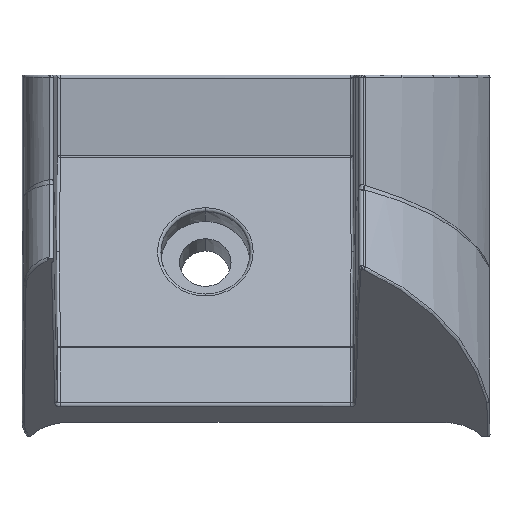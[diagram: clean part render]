
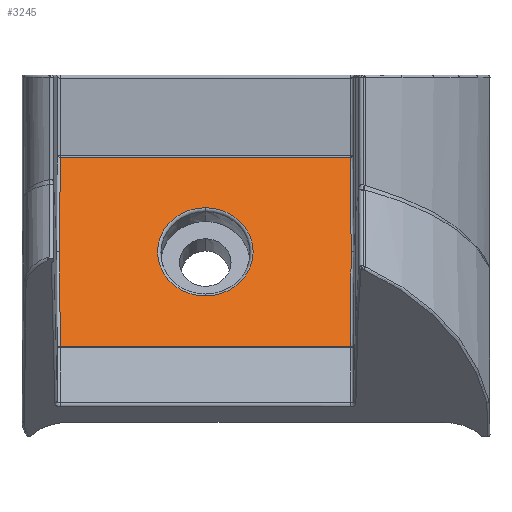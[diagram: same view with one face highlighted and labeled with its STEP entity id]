
A CAD part, left-side view. The second image highlights one B-rep face of the part: STEP entity #3245.
In plain terms, the highlighted planar face has unit normal (-0.924, 0, 0.383).
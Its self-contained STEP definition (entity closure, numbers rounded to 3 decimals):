
#22 = ORIENTED_EDGE ( 'NONE', *, *, #3414, .T. ) ;
#124 = CARTESIAN_POINT ( 'NONE',  ( -17.804, 5.743, -7.767 ) ) ;
#131 = CARTESIAN_POINT ( 'NONE',  ( -19.147, 15.047, -11.01 ) ) ;
#190 = EDGE_CURVE ( 'NONE', #958, #2350, #1539, .T. ) ;
#228 = DIRECTION ( 'NONE',  ( -0.383, 0., -0.924 ) ) ;
#265 = AXIS2_PLACEMENT_3D ( 'NONE', #1842, #1811, #1454 ) ;
#343 = CARTESIAN_POINT ( 'NONE',  ( -1.76, -3.336, 30.964 ) ) ;
#431 = CARTESIAN_POINT ( 'NONE',  ( -16.631, 5.743, -4.937 ) ) ;
#499 = CARTESIAN_POINT ( 'NONE',  ( -16.631, -3.606, -4.937 ) ) ;
#740 = CARTESIAN_POINT ( 'NONE',  ( -19.147, -3.56, -11.01 ) ) ;
#783 = ORIENTED_EDGE ( 'NONE', *, *, #3510, .T. ) ;
#827 = AXIS2_PLACEMENT_3D ( 'NONE', #3755, #1389, #228 ) ;
#884 = EDGE_CURVE ( 'NONE', #4700, #4853, #1672, .T. ) ;
#958 = VERTEX_POINT ( 'NONE', #4106 ) ;
#1031 = FACE_BOUND ( 'NONE', #1824, .T. ) ;
#1183 = CARTESIAN_POINT ( 'NONE',  ( -1.812, 14.832, 30.839 ) ) ;
#1248 = VERTEX_POINT ( 'NONE', #4829 ) ;
#1276 = CARTESIAN_POINT ( 'NONE',  ( -1.81, 15.35, 30.844 ) ) ;
#1389 = DIRECTION ( 'NONE',  ( 0.924, 0., -0.383 ) ) ;
#1454 = DIRECTION ( 'NONE',  ( -0.383, 0., -0.924 ) ) ;
#1509 = VECTOR ( 'NONE', #3529, 1000. ) ;
#1539 = CIRCLE ( 'NONE', #4513, 3.064 ) ;
#1622 = LINE ( 'NONE', #1183, #1509 ) ;
#1640 = CARTESIAN_POINT ( 'NONE',  ( -1.862, -3.874, 30.718 ) ) ;
#1672 = LINE ( 'NONE', #2554, #1923 ) ;
#1756 = EDGE_CURVE ( 'NONE', #2350, #958, #2754, .T. ) ;
#1769 = ORIENTED_EDGE ( 'NONE', *, *, #884, .T. ) ;
#1811 = DIRECTION ( 'NONE',  ( 0.924, 0., -0.383 ) ) ;
#1817 = VECTOR ( 'NONE', #2920, 1000. ) ;
#1824 = EDGE_LOOP ( 'NONE', ( #4892, #3990 ) ) ;
#1842 = CARTESIAN_POINT ( 'NONE',  ( -16.631, 5.743, -4.937 ) ) ;
#1872 = LINE ( 'NONE', #343, #2917 ) ;
#1923 = VECTOR ( 'NONE', #2941, 1000. ) ;
#1926 = EDGE_LOOP ( 'NONE', ( #4597, #783, #3476, #4523, #1769, #22 ) ) ;
#1948 = LINE ( 'NONE', #4855, #1817 ) ;
#2350 = VERTEX_POINT ( 'NONE', #124 ) ;
#2383 = DIRECTION ( 'NONE',  ( 0.924, 0., -0.383 ) ) ;
#2551 = VECTOR ( 'NONE', #2809, 1000. ) ;
#2554 = CARTESIAN_POINT ( 'NONE',  ( -19.147, 15.5, -11.01 ) ) ;
#2683 = DIRECTION ( 'NONE',  ( 0.383, 0.007, 0.924 ) ) ;
#2707 = VERTEX_POINT ( 'NONE', #499 ) ;
#2754 = CIRCLE ( 'NONE', #265, 3.064 ) ;
#2774 = EDGE_CURVE ( 'NONE', #4234, #4700, #3929, .T. ) ;
#2809 = DIRECTION ( 'NONE',  ( 0.383, -0.007, 0.924 ) ) ;
#2917 = VECTOR ( 'NONE', #2683, 1000. ) ;
#2920 = DIRECTION ( 'NONE',  ( 0., 1., 0. ) ) ;
#2941 = DIRECTION ( 'NONE',  ( 0., -1., 0. ) ) ;
#3245 = ADVANCED_FACE ( 'NONE', ( #1031, #4170 ), #4544, .F. ) ;
#3414 = EDGE_CURVE ( 'NONE', #4853, #2707, #3621, .T. ) ;
#3476 = ORIENTED_EDGE ( 'NONE', *, *, #4954, .T. ) ;
#3510 = EDGE_CURVE ( 'NONE', #1248, #5050, #1948, .T. ) ;
#3529 = DIRECTION ( 'NONE',  ( -0.383, 0.007, -0.924 ) ) ;
#3621 = LINE ( 'NONE', #1640, #2551 ) ;
#3755 = CARTESIAN_POINT ( 'NONE',  ( -1.811, 15.5, 30.843 ) ) ;
#3812 = VECTOR ( 'NONE', #4429, 1000. ) ;
#3929 = LINE ( 'NONE', #1276, #3812 ) ;
#3990 = ORIENTED_EDGE ( 'NONE', *, *, #190, .T. ) ;
#4106 = CARTESIAN_POINT ( 'NONE',  ( -15.458, 5.743, -2.106 ) ) ;
#4170 = FACE_OUTER_BOUND ( 'NONE', #1926, .T. ) ;
#4213 = CARTESIAN_POINT ( 'NONE',  ( -16.631, 15.091, -4.937 ) ) ;
#4234 = VERTEX_POINT ( 'NONE', #4213 ) ;
#4384 = DIRECTION ( 'NONE',  ( -0.383, 0., -0.924 ) ) ;
#4393 = EDGE_CURVE ( 'NONE', #2707, #1248, #1872, .T. ) ;
#4429 = DIRECTION ( 'NONE',  ( -0.383, -0.007, -0.924 ) ) ;
#4513 = AXIS2_PLACEMENT_3D ( 'NONE', #431, #2383, #4384 ) ;
#4523 = ORIENTED_EDGE ( 'NONE', *, *, #2774, .T. ) ;
#4544 = PLANE ( 'NONE',  #827 ) ;
#4597 = ORIENTED_EDGE ( 'NONE', *, *, #4393, .T. ) ;
#4700 = VERTEX_POINT ( 'NONE', #131 ) ;
#4829 = CARTESIAN_POINT ( 'NONE',  ( -14.115, -3.56, 1.137 ) ) ;
#4853 = VERTEX_POINT ( 'NONE', #740 ) ;
#4855 = CARTESIAN_POINT ( 'NONE',  ( -14.115, 15.5, 1.137 ) ) ;
#4884 = CARTESIAN_POINT ( 'NONE',  ( -14.115, 15.047, 1.137 ) ) ;
#4892 = ORIENTED_EDGE ( 'NONE', *, *, #1756, .T. ) ;
#4954 = EDGE_CURVE ( 'NONE', #5050, #4234, #1622, .T. ) ;
#5050 = VERTEX_POINT ( 'NONE', #4884 ) ;
